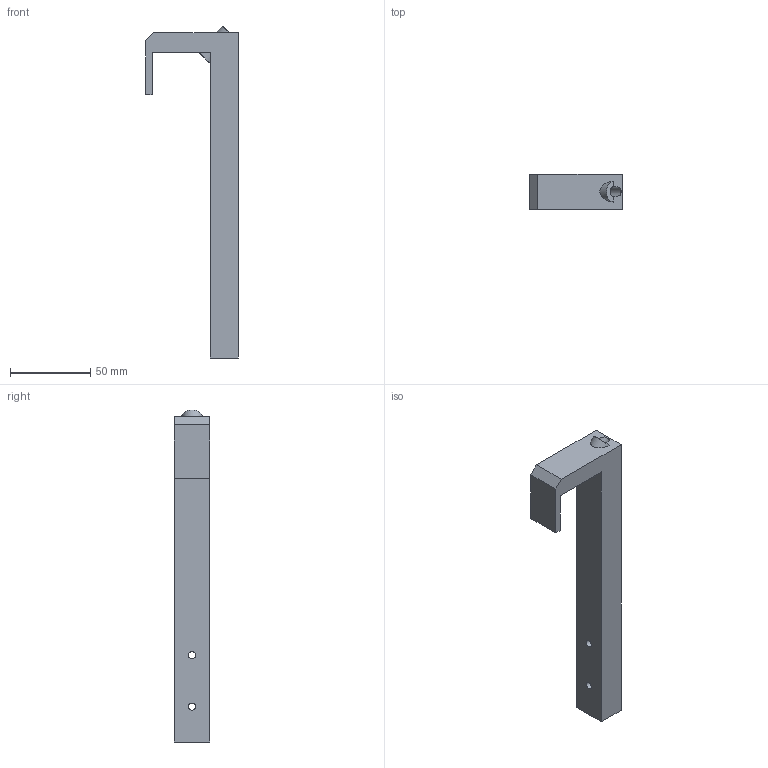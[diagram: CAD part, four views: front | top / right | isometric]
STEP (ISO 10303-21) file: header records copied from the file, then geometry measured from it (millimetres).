
FILE_DESCRIPTION(('Open CASCADE Model'),'2;1');
FILE_NAME('Open CASCADE Shape Model','2026-10-17T22:08:14',('Author'),( 'Open CASCADE'),'Open CASCADE STEP processor 7.9','Open CASCADE 7.9' ,'Unknown');
FILE_SCHEMA(('AUTOMOTIVE_DESIGN { 1 0 10303 214 1 1 1 1 }'));
Length unit declared in the file: millimetre
Products named in the file (1): Open CASCADE STEP translator 7.9 2
Bounding box: 57.7 x 22 x 206.7 mm (x, y, z)
Volume: 89406.1 mm3; surface area: 22231.8 mm2
Topology: 1 solids, 1 shells, 37 faces, 97 edges, 65 vertices
Faces by surface type: plane 29, cylinder 8
Full cylindrical faces by diameter (mm): 4.4 x4, 6.4 x1
Entity records: 2512 total; most frequent: CARTESIAN_POINT 617, DIRECTION 323, ORIENTED_EDGE 194, PCURVE 194, DEFINITIONAL_REPRESENTATION 194, LINE 188, VECTOR 188, EDGE_CURVE 97
